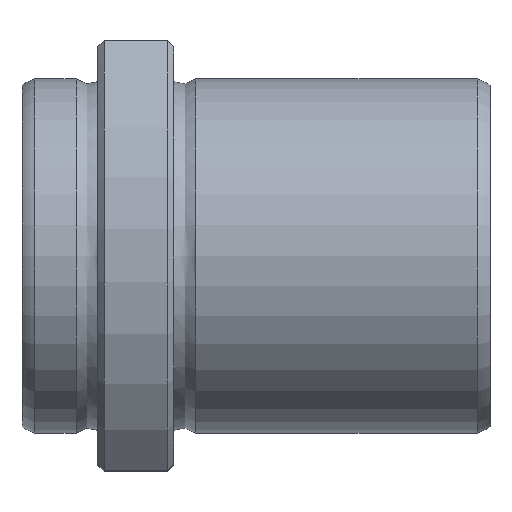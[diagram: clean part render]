
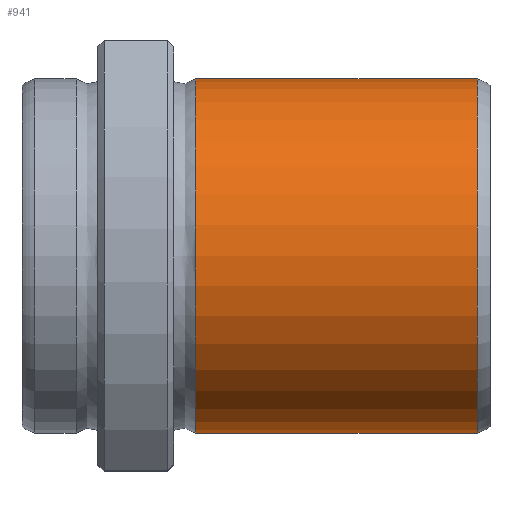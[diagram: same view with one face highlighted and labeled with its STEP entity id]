
A CAD part, top view. The second image highlights one B-rep face of the part: STEP entity #941.
In plain terms, the highlighted cylindrical face has radius 14 mm (diameter 28 mm), a full revolution.
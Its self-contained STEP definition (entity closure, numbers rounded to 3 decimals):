
#907=CARTESIAN_POINT('',(35.999,0.0,14.));
#908=VERTEX_POINT('',#907);
#909=CARTESIAN_POINT('',(35.999,0.0,0.0));
#910=DIRECTION('',(-1.0,0.0,0.0));
#911=DIRECTION('',(0.0,0.0,1.0));
#912=AXIS2_PLACEMENT_3D('',#909,#910,#911);
#913=CIRCLE('',#912,14.);
#914=EDGE_CURVE('',#908,#908,#913,.T.);
#922=CARTESIAN_POINT('',(24.859,0.0,0.0));
#923=DIRECTION('',(-1.0,0.0,0.0));
#924=DIRECTION('',(0.0,0.0,1.0));
#925=AXIS2_PLACEMENT_3D('',#922,#923,#924);
#926=CYLINDRICAL_SURFACE('',#925,14.);
#927=CARTESIAN_POINT('',(13.72,0.0,14.));
#928=VERTEX_POINT('',#927);
#929=CARTESIAN_POINT('',(13.72,0.0,0.0));
#930=DIRECTION('',(-1.0,0.0,0.0));
#931=DIRECTION('',(0.0,0.0,1.0));
#932=AXIS2_PLACEMENT_3D('',#929,#930,#931);
#933=CIRCLE('',#932,14.);
#934=EDGE_CURVE('',#928,#928,#933,.T.);
#935=ORIENTED_EDGE('',*,*,#934,.F.);
#936=EDGE_LOOP('',(#935));
#937=FACE_OUTER_BOUND('',#936,.T.);
#938=ORIENTED_EDGE('',*,*,#914,.T.);
#939=EDGE_LOOP('',(#938));
#940=FACE_BOUND('',#939,.T.);
#941=ADVANCED_FACE('',(#937,#940),#926,.T.);
